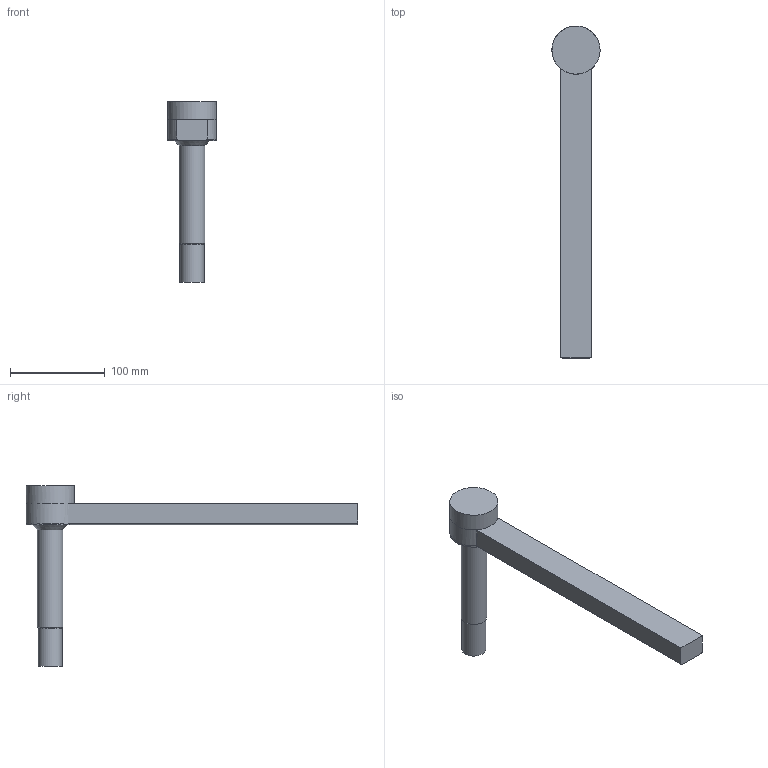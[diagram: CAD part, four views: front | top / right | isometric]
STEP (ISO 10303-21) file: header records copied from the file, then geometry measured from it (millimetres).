
FILE_DESCRIPTION(/* description */ (''),/* implementation_level */ '2;1');
FILE_NAME(/* name */ 'B1073TRUPas.stp',/* time_stamp */ '2019-10-03T16:00:46-04:00',/* author */ (''),/* organization */ (''),/* preprocessor_version */ 'ST-DEVELOPER v16',/* originating_system */ 'SIEMENS PLM Software NX 11.0',/* authorisation */ '');
FILE_SCHEMA (('AUTOMOTIVE_DESIGN { 1 0 10303 214 3 1 1 1 }'));
Length unit declared in the file: inch
Products named in the file (3): B1073TRUPd; B10XX_SubSolid; B1073TRUPas
Assembly tree (2 placements, depth 2):
  B1073TRUPas
    B10XX_SubSolid
    B1073TRUPd
Bounding box: 50.91 x 350.87 x 191.29 mm (x, y, z)
Volume: 486328.9 mm3; surface area: 79806.6 mm2
Topology: 2 solids, 3 shells, 34 faces, 72 edges, 45 vertices
Faces by surface type: plane 13, cylinder 10, cone 6, torus 3, sphere 1, revolution 1
Full cylindrical faces by diameter (mm): 8.731 x2, 25.4 x2, 26.987 x1, 50.927 x1
Entity records: 874 total; most frequent: CARTESIAN_POINT 167, DIRECTION 142, ORIENTED_EDGE 96, AXIS2_PLACEMENT_3D 62, EDGE_LOOP 54, EDGE_CURVE 48, FACE_BOUND 45, VERTEX_POINT 40
